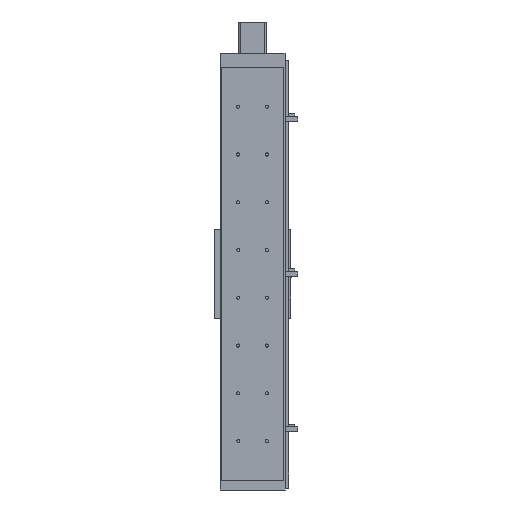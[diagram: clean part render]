
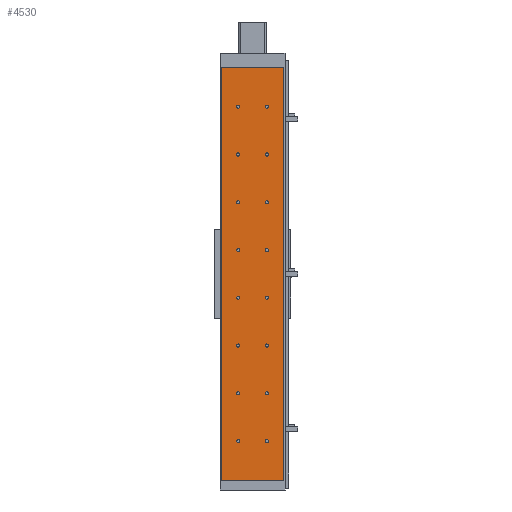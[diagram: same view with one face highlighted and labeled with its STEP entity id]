
A CAD part, front view. The second image highlights one B-rep face of the part: STEP entity #4530.
In plain terms, the highlighted planar face has unit normal (0, -1, 0).
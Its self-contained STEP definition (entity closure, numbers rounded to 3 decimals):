
#2214=CARTESIAN_POINT('',(26.75,0.0,182.5));
#2215=VERTEX_POINT('',#2214);
#2216=CARTESIAN_POINT('',(30.,0.0,182.5));
#2217=DIRECTION('',(0.0,1.0,0.0));
#2218=DIRECTION('',(1.0,0.0,0.0));
#2219=AXIS2_PLACEMENT_3D('',#2216,#2217,#2218);
#2220=CIRCLE('',#2219,3.25);
#2221=EDGE_CURVE('',#2215,#2215,#2220,.T.);
#2255=CARTESIAN_POINT('',(-33.25,0.0,182.5));
#2256=VERTEX_POINT('',#2255);
#2257=CARTESIAN_POINT('',(-30.,0.0,182.5));
#2258=DIRECTION('',(0.0,1.0,0.0));
#2259=DIRECTION('',(1.0,0.0,0.0));
#2260=AXIS2_PLACEMENT_3D('',#2257,#2258,#2259);
#2261=CIRCLE('',#2260,3.25);
#2262=EDGE_CURVE('',#2256,#2256,#2261,.T.);
#2365=CARTESIAN_POINT('',(-33.25,0.0,582.5));
#2366=VERTEX_POINT('',#2365);
#2367=CARTESIAN_POINT('',(-30.,0.0,582.5));
#2368=DIRECTION('',(0.0,1.0,0.0));
#2369=DIRECTION('',(1.0,0.0,0.0));
#2370=AXIS2_PLACEMENT_3D('',#2367,#2368,#2369);
#2371=CIRCLE('',#2370,3.25);
#2372=EDGE_CURVE('',#2366,#2366,#2371,.T.);
#2544=CARTESIAN_POINT('',(26.75,0.0,582.5));
#2545=VERTEX_POINT('',#2544);
#2546=CARTESIAN_POINT('',(30.,0.0,582.5));
#2547=DIRECTION('',(0.0,1.0,0.0));
#2548=DIRECTION('',(1.0,0.0,0.0));
#2549=AXIS2_PLACEMENT_3D('',#2546,#2547,#2548);
#2550=CIRCLE('',#2549,3.25);
#2551=EDGE_CURVE('',#2545,#2545,#2550,.T.);
#2585=CARTESIAN_POINT('',(-33.25,0.0,682.5));
#2586=VERTEX_POINT('',#2585);
#2587=CARTESIAN_POINT('',(-30.,0.0,682.5));
#2588=DIRECTION('',(0.0,1.0,0.0));
#2589=DIRECTION('',(1.0,0.0,0.0));
#2590=AXIS2_PLACEMENT_3D('',#2587,#2588,#2589);
#2591=CIRCLE('',#2590,3.25);
#2592=EDGE_CURVE('',#2586,#2586,#2591,.T.);
#2764=CARTESIAN_POINT('',(26.75,0.0,682.5));
#2765=VERTEX_POINT('',#2764);
#2766=CARTESIAN_POINT('',(30.,0.0,682.5));
#2767=DIRECTION('',(0.0,1.0,0.0));
#2768=DIRECTION('',(1.0,0.0,0.0));
#2769=AXIS2_PLACEMENT_3D('',#2766,#2767,#2768);
#2770=CIRCLE('',#2769,3.25);
#2771=EDGE_CURVE('',#2765,#2765,#2770,.T.);
#2805=CARTESIAN_POINT('',(-33.25,0.0,782.5));
#2806=VERTEX_POINT('',#2805);
#2807=CARTESIAN_POINT('',(-30.,0.0,782.5));
#2808=DIRECTION('',(0.0,1.0,0.0));
#2809=DIRECTION('',(1.0,0.0,0.0));
#2810=AXIS2_PLACEMENT_3D('',#2807,#2808,#2809);
#2811=CIRCLE('',#2810,3.25);
#2812=EDGE_CURVE('',#2806,#2806,#2811,.T.);
#2984=CARTESIAN_POINT('',(26.75,0.0,782.5));
#2985=VERTEX_POINT('',#2984);
#2986=CARTESIAN_POINT('',(30.,0.0,782.5));
#2987=DIRECTION('',(0.0,1.0,0.0));
#2988=DIRECTION('',(1.0,0.0,0.0));
#2989=AXIS2_PLACEMENT_3D('',#2986,#2987,#2988);
#2990=CIRCLE('',#2989,3.25);
#2991=EDGE_CURVE('',#2985,#2985,#2990,.T.);
#3025=CARTESIAN_POINT('',(-33.25,0.0,382.5));
#3026=VERTEX_POINT('',#3025);
#3027=CARTESIAN_POINT('',(-30.,0.0,382.5));
#3028=DIRECTION('',(0.0,1.0,0.0));
#3029=DIRECTION('',(1.0,0.0,0.0));
#3030=AXIS2_PLACEMENT_3D('',#3027,#3028,#3029);
#3031=CIRCLE('',#3030,3.25);
#3032=EDGE_CURVE('',#3026,#3026,#3031,.T.);
#3204=CARTESIAN_POINT('',(26.75,0.0,382.5));
#3205=VERTEX_POINT('',#3204);
#3206=CARTESIAN_POINT('',(30.,0.0,382.5));
#3207=DIRECTION('',(0.0,1.0,0.0));
#3208=DIRECTION('',(1.0,0.0,0.0));
#3209=AXIS2_PLACEMENT_3D('',#3206,#3207,#3208);
#3210=CIRCLE('',#3209,3.25);
#3211=EDGE_CURVE('',#3205,#3205,#3210,.T.);
#3245=CARTESIAN_POINT('',(-33.25,0.0,282.5));
#3246=VERTEX_POINT('',#3245);
#3247=CARTESIAN_POINT('',(-30.,0.0,282.5));
#3248=DIRECTION('',(0.0,1.0,0.0));
#3249=DIRECTION('',(1.0,0.0,0.0));
#3250=AXIS2_PLACEMENT_3D('',#3247,#3248,#3249);
#3251=CIRCLE('',#3250,3.25);
#3252=EDGE_CURVE('',#3246,#3246,#3251,.T.);
#3424=CARTESIAN_POINT('',(26.75,0.0,282.5));
#3425=VERTEX_POINT('',#3424);
#3426=CARTESIAN_POINT('',(30.,0.0,282.5));
#3427=DIRECTION('',(0.0,1.0,0.0));
#3428=DIRECTION('',(1.0,0.0,0.0));
#3429=AXIS2_PLACEMENT_3D('',#3426,#3427,#3428);
#3430=CIRCLE('',#3429,3.25);
#3431=EDGE_CURVE('',#3425,#3425,#3430,.T.);
#3465=CARTESIAN_POINT('',(-33.25,0.0,82.5));
#3466=VERTEX_POINT('',#3465);
#3467=CARTESIAN_POINT('',(-30.,0.0,82.5));
#3468=DIRECTION('',(0.0,1.0,0.0));
#3469=DIRECTION('',(1.0,0.0,0.0));
#3470=AXIS2_PLACEMENT_3D('',#3467,#3468,#3469);
#3471=CIRCLE('',#3470,3.25);
#3472=EDGE_CURVE('',#3466,#3466,#3471,.T.);
#3644=CARTESIAN_POINT('',(26.75,0.0,82.5));
#3645=VERTEX_POINT('',#3644);
#3646=CARTESIAN_POINT('',(30.,0.0,82.5));
#3647=DIRECTION('',(0.0,1.0,0.0));
#3648=DIRECTION('',(1.0,0.0,0.0));
#3649=AXIS2_PLACEMENT_3D('',#3646,#3647,#3648);
#3650=CIRCLE('',#3649,3.25);
#3651=EDGE_CURVE('',#3645,#3645,#3650,.T.);
#3754=CARTESIAN_POINT('',(26.75,0.0,482.5));
#3755=VERTEX_POINT('',#3754);
#3756=CARTESIAN_POINT('',(30.,0.0,482.5));
#3757=DIRECTION('',(0.0,1.0,0.0));
#3758=DIRECTION('',(1.0,0.0,0.0));
#3759=AXIS2_PLACEMENT_3D('',#3756,#3757,#3758);
#3760=CIRCLE('',#3759,3.25);
#3761=EDGE_CURVE('',#3755,#3755,#3760,.T.);
#3864=CARTESIAN_POINT('',(-33.25,0.0,482.5));
#3865=VERTEX_POINT('',#3864);
#3866=CARTESIAN_POINT('',(-30.,0.0,482.5));
#3867=DIRECTION('',(0.0,1.0,0.0));
#3868=DIRECTION('',(1.0,0.0,0.0));
#3869=AXIS2_PLACEMENT_3D('',#3866,#3867,#3868);
#3870=CIRCLE('',#3869,3.25);
#3871=EDGE_CURVE('',#3865,#3865,#3870,.T.);
#4198=CARTESIAN_POINT('',(65.0,0.0,0.0));
#4199=VERTEX_POINT('',#4198);
#4206=CARTESIAN_POINT('',(-65.0,0.0,0.0));
#4207=VERTEX_POINT('',#4206);
#4208=CARTESIAN_POINT('',(-65.0,0.0,0.0));
#4209=DIRECTION('',(1.0,0.0,0.0));
#4210=VECTOR('',#4209,130.0);
#4211=LINE('',#4208,#4210);
#4212=EDGE_CURVE('',#4207,#4199,#4211,.T.);
#4402=CARTESIAN_POINT('',(-65.0,0.0,865.0));
#4403=VERTEX_POINT('',#4402);
#4410=CARTESIAN_POINT('',(65.0,0.0,865.0));
#4411=VERTEX_POINT('',#4410);
#4412=CARTESIAN_POINT('',(65.0,0.0,865.0));
#4413=DIRECTION('',(-1.0,0.0,0.0));
#4414=VECTOR('',#4413,130.0);
#4415=LINE('',#4412,#4414);
#4416=EDGE_CURVE('',#4411,#4403,#4415,.T.);
#4439=CARTESIAN_POINT('',(-65.0,0.0,0.0));
#4440=DIRECTION('',(0.0,0.0,1.0));
#4441=VECTOR('',#4440,865.0);
#4442=LINE('',#4439,#4441);
#4443=EDGE_CURVE('',#4207,#4403,#4442,.T.);
#4461=CARTESIAN_POINT('',(65.0,0.0,0.0));
#4462=DIRECTION('',(0.0,0.0,1.0));
#4463=VECTOR('',#4462,865.0);
#4464=LINE('',#4461,#4463);
#4465=EDGE_CURVE('',#4199,#4411,#4464,.T.);
#4471=CARTESIAN_POINT('',(65.0,0.0,0.0));
#4472=DIRECTION('',(0.0,-1.0,0.0));
#4473=DIRECTION('',(0.0,0.0,-1.0));
#4474=AXIS2_PLACEMENT_3D('',#4471,#4472,#4473);
#4475=PLANE('',#4474);
#4476=ORIENTED_EDGE('',*,*,#4416,.T.);
#4477=ORIENTED_EDGE('',*,*,#4443,.F.);
#4478=ORIENTED_EDGE('',*,*,#4212,.T.);
#4479=ORIENTED_EDGE('',*,*,#4465,.T.);
#4480=EDGE_LOOP('',(#4476,#4477,#4478,#4479));
#4481=FACE_OUTER_BOUND('',#4480,.T.);
#4482=ORIENTED_EDGE('',*,*,#2221,.T.);
#4483=EDGE_LOOP('',(#4482));
#4484=FACE_BOUND('',#4483,.T.);
#4485=ORIENTED_EDGE('',*,*,#2262,.T.);
#4486=EDGE_LOOP('',(#4485));
#4487=FACE_BOUND('',#4486,.T.);
#4488=ORIENTED_EDGE('',*,*,#2372,.T.);
#4489=EDGE_LOOP('',(#4488));
#4490=FACE_BOUND('',#4489,.T.);
#4491=ORIENTED_EDGE('',*,*,#2551,.T.);
#4492=EDGE_LOOP('',(#4491));
#4493=FACE_BOUND('',#4492,.T.);
#4494=ORIENTED_EDGE('',*,*,#2592,.T.);
#4495=EDGE_LOOP('',(#4494));
#4496=FACE_BOUND('',#4495,.T.);
#4497=ORIENTED_EDGE('',*,*,#2771,.T.);
#4498=EDGE_LOOP('',(#4497));
#4499=FACE_BOUND('',#4498,.T.);
#4500=ORIENTED_EDGE('',*,*,#2812,.T.);
#4501=EDGE_LOOP('',(#4500));
#4502=FACE_BOUND('',#4501,.T.);
#4503=ORIENTED_EDGE('',*,*,#2991,.T.);
#4504=EDGE_LOOP('',(#4503));
#4505=FACE_BOUND('',#4504,.T.);
#4506=ORIENTED_EDGE('',*,*,#3032,.T.);
#4507=EDGE_LOOP('',(#4506));
#4508=FACE_BOUND('',#4507,.T.);
#4509=ORIENTED_EDGE('',*,*,#3211,.T.);
#4510=EDGE_LOOP('',(#4509));
#4511=FACE_BOUND('',#4510,.T.);
#4512=ORIENTED_EDGE('',*,*,#3252,.T.);
#4513=EDGE_LOOP('',(#4512));
#4514=FACE_BOUND('',#4513,.T.);
#4515=ORIENTED_EDGE('',*,*,#3431,.T.);
#4516=EDGE_LOOP('',(#4515));
#4517=FACE_BOUND('',#4516,.T.);
#4518=ORIENTED_EDGE('',*,*,#3472,.T.);
#4519=EDGE_LOOP('',(#4518));
#4520=FACE_BOUND('',#4519,.T.);
#4521=ORIENTED_EDGE('',*,*,#3651,.T.);
#4522=EDGE_LOOP('',(#4521));
#4523=FACE_BOUND('',#4522,.T.);
#4524=ORIENTED_EDGE('',*,*,#3761,.T.);
#4525=EDGE_LOOP('',(#4524));
#4526=FACE_BOUND('',#4525,.T.);
#4527=ORIENTED_EDGE('',*,*,#3871,.T.);
#4528=EDGE_LOOP('',(#4527));
#4529=FACE_BOUND('',#4528,.T.);
#4530=ADVANCED_FACE('',(#4481,#4484,#4487,#4490,#4493,#4496,#4499,#4502,#4505,#4508,#4511,#4514,#4517,#4520,#4523,#4526,#4529),#4475,.T.);
